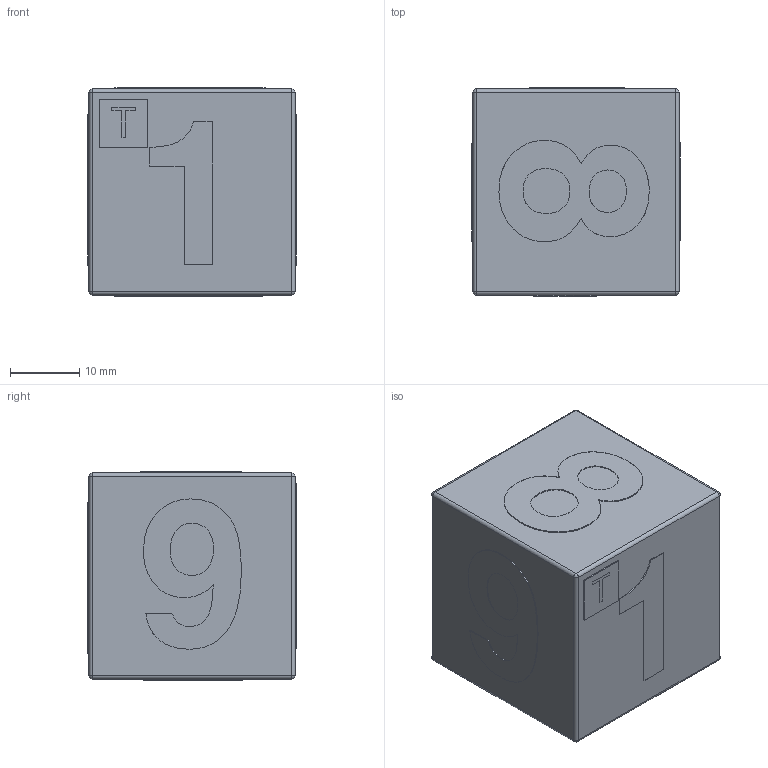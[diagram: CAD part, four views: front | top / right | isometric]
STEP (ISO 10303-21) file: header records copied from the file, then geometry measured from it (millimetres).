
FILE_DESCRIPTION(('Open CASCADE Model'),'2;1');
FILE_NAME('Open CASCADE Shape Model','2025-09-14T20:47:16',('Author'),( 'Open CASCADE'),'Open CASCADE STEP processor 7.8','Open CASCADE 7.8' ,'Unknown');
FILE_SCHEMA(('AUTOMOTIVE_DESIGN { 1 0 10303 214 1 1 1 1 }'));
Length unit declared in the file: millimetre
Products named in the file (20): 9df5c6ce-91a3-11f0-88d2-1c1b0deae66b; 9df5c868-91a3-11f0-88d2-1c1b0deae66b; 9df5c868-91a3-11f0-88d2-1c1b0deae66b_part; 9df8accc-91a3-11f0-88d2-1c1b0deae66b; 9df8accc-91a3-11f0-88d2-1c1b0deae66b_part; 9dfa900a-91a3-11f0-88d2-1c1b0deae66b; 9dfa900a-91a3-11f0-88d2-1c1b0deae66b_part; 9dfc6196-91a3-11f0-88d2-1c1b0deae66b; 9dfc6196-91a3-11f0-88d2-1c1b0deae66b_part; 9dfe3980-91a3-11f0-88d2-1c1b0deae66b; 9dfe3980-91a3-11f0-88d2-1c1b0deae66b_part; 9e000b0c-91a3-11f0-88d2-1c1b0deae66b; 9e000b0c-91a3-11f0-88d2-1c1b0deae66b_part; 9e017988-91a3-11f0-88d2-1c1b0deae66b; 9e017988-91a3-11f0-88d2-1c1b0deae66b_part; 9e049d2a-91a3-11f0-88d2-1c1b0deae66b; 9e049d2a-91a3-11f0-88d2-1c1b0deae66b_part; 9e049e88-91a3-11f0-88d2-1c1b0deae66b; 9e049e88-91a3-11f0-88d2-1c1b0deae66b_part
Assembly tree (19 placements, depth 4):
  9df5c6ce-91a3-11f0-88d2-1c1b0deae66b
    9df5c6ce-91a3-11f0-88d2-1c1b0deae66b
      9df5c868-91a3-11f0-88d2-1c1b0deae66b
        9df5c868-91a3-11f0-88d2-1c1b0deae66b_part
      9df8accc-91a3-11f0-88d2-1c1b0deae66b
        9df8accc-91a3-11f0-88d2-1c1b0deae66b_part
      9dfa900a-91a3-11f0-88d2-1c1b0deae66b
        9dfa900a-91a3-11f0-88d2-1c1b0deae66b_part
      9dfc6196-91a3-11f0-88d2-1c1b0deae66b
        9dfc6196-91a3-11f0-88d2-1c1b0deae66b_part
      9dfe3980-91a3-11f0-88d2-1c1b0deae66b
        9dfe3980-91a3-11f0-88d2-1c1b0deae66b_part
      9e000b0c-91a3-11f0-88d2-1c1b0deae66b
        9e000b0c-91a3-11f0-88d2-1c1b0deae66b_part
      9e017988-91a3-11f0-88d2-1c1b0deae66b
        9e017988-91a3-11f0-88d2-1c1b0deae66b_part
      9e049d2a-91a3-11f0-88d2-1c1b0deae66b
        9e049d2a-91a3-11f0-88d2-1c1b0deae66b_part
      9e049e88-91a3-11f0-88d2-1c1b0deae66b
        9e049e88-91a3-11f0-88d2-1c1b0deae66b_part
Bounding box: 30 x 30 x 30 mm (x, y, z)
Volume: 26333.7 mm3; surface area: 7370 mm2
Topology: 9 solids, 9 shells, 224 faces, 602 edges, 388 vertices
Faces by surface type: extrusion 125, plane 79, cylinder 12, sphere 8
Entity records: 15160 total; most frequent: CARTESIAN_POINT 3696, DIRECTION 1637, VECTOR 1351, LINE 1226, ORIENTED_EDGE 1188, PCURVE 1188, DEFINITIONAL_REPRESENTATION 1188, B_SPLINE_CURVE_WITH_KNOTS 657
